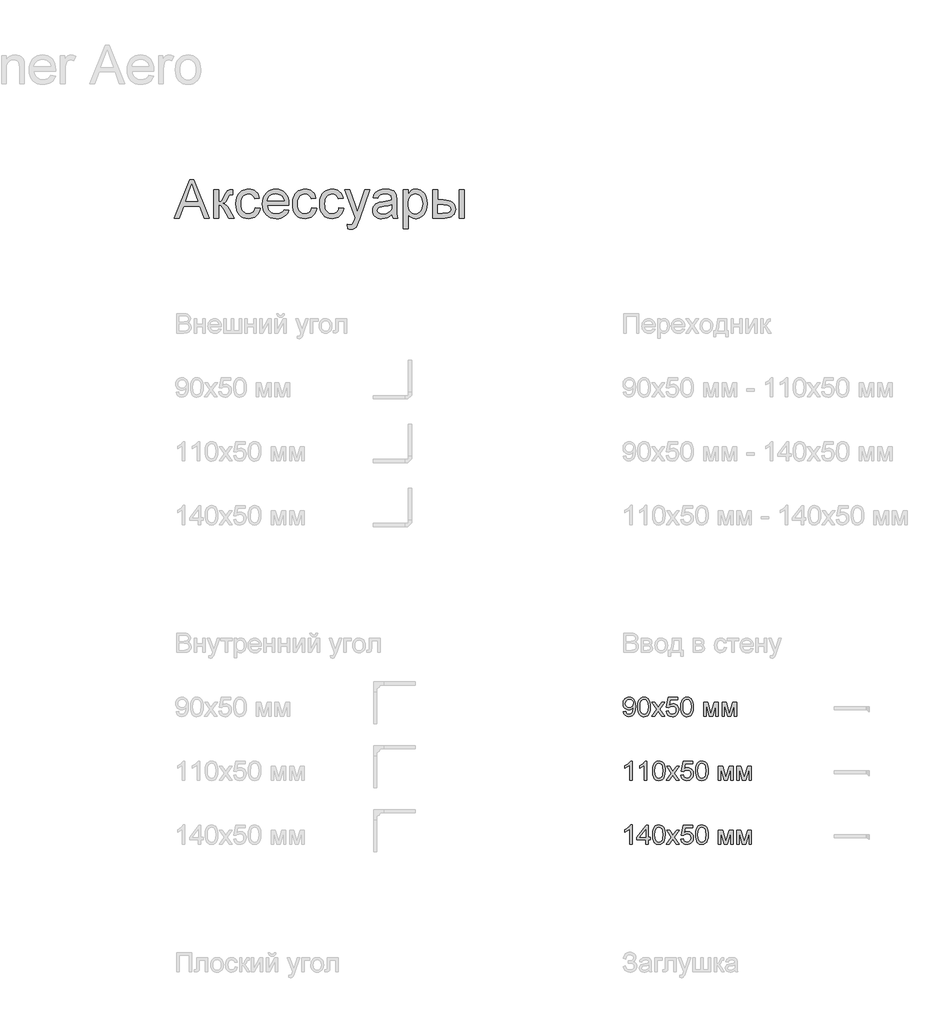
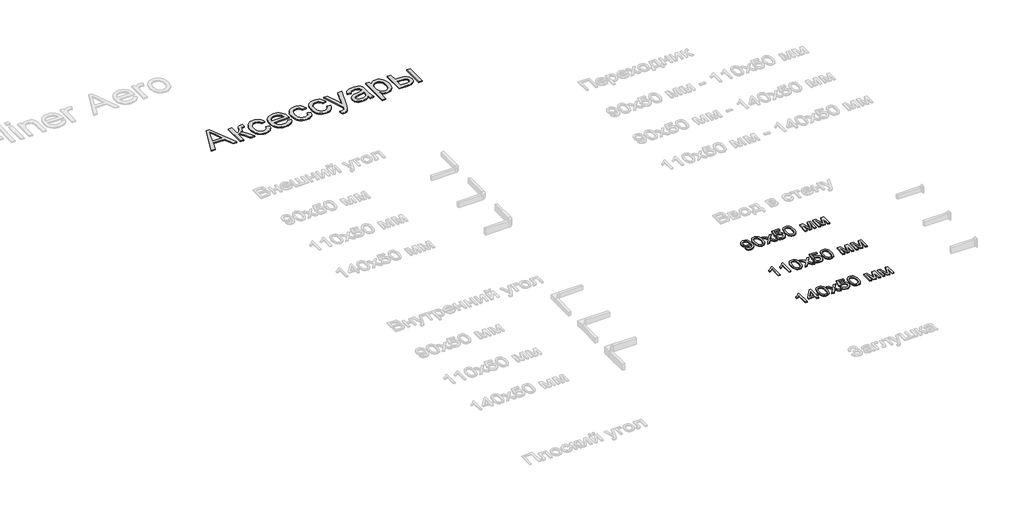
# One storey, part 92 of 168: 4 proxies.
"""IFC4 building model written with IfcOpenShell, lengths in millimetres."""

from ifc_helpers import new_model, si_unit, origin, origin_with_axes, place, context, project, spatial, polyline, outline, extrude, element, save

model = new_model("IFC4")

# Units and contexts
model_context = context("Model", 3, world=origin())
ifc_project = project(units=[si_unit("LENGTHUNIT", "METRE", prefix="MILLI")], contexts=[model_context])

# Site, building, storey
site = spatial("IfcSite", under=ifc_project)
building = spatial("IfcBuilding", under=site)
storey = spatial("IfcBuildingStorey", under=building, Name="Этаж 01", Elevation=0.0)

# Proxies
placement = place(None, origin())
element("IfcBuildingElementProxy", 1, Name="300 мм Arial 2", ObjectType="300 мм Arial 2", at=placement, inside=storey, context=model_context, shape_type="SweptSolid", body=[
    extrude(outline(polyline([(18069.3999525, -13073.063449), (18107.0710688, -13068.3545594), (18113.5090037, -13089.7377004), (18123.9936406, -13104.2966303), (18138.267462, -13112.6567487), (18156.0729505, -13115.4434548), (18172.0482262, -13113.6500301), (18186.5703679, -13108.2697559), (18198.6368974, -13099.8912435), (18207.2453361, -13089.1031039), (18219.5693829, -13056.3616064), (18225.0140364, -13012.6572253), (18224.7933072, -13005.2995854), (18211.7426935, -13021.2288758), (18194.6637718, -13033.8472283), (18174.7889471, -13042.0693909), (18153.3506238, -13044.8101117), (18135.455464, -13043.1362486), (18118.9996425, -13038.1146594), (18103.9831593, -13029.745344), (18090.4060144, -13018.0283025), (18079.1557231, -13003.5751386), (18071.1198008, -12986.9974562), (18066.2982474, -12968.2952553), (18064.6910629, -12947.4685358), (18066.3764223, -12925.9474391), (18071.4325005, -12906.6336343), (18079.8592975, -12889.5271216), (18091.6568132, -12874.6279008), (18105.9927147, -12862.5567728), (18122.0346689, -12853.9345385), (18139.782676, -12848.761198), (18159.2367357, -12847.0367511), (18187.3337231, -12850.9730885), (18212.9107188, -12862.7821005), (18234.3030568, -12881.8751761), (18249.8460711, -12907.6637039), (18259.3098354, -12943.3114693), (18262.4644236, -12991.9822572), (18259.3190325, -13043.5869041), (18249.8828593, -13083.4745094), (18234.2386775, -13113.447695), (18212.4692604, -13135.3090825), (18185.5127072, -13148.663199), (18154.307117, -13153.1145711), (18122.0990483, -13147.8630556), (18096.4024909, -13132.1085092), (18078.4314555, -13106.8442132), (18069.3999525, -13073.063449)]), holes=[polyline([(18224.7933072, -12946.585619), (18220.7282112, -12921.0546085), (18208.5329231, -12901.40971), (18189.6053944, -12888.8833281), (18165.3435768, -12884.7078674), (18140.1804484, -12889.2052248), (18120.020515, -12902.697297), (18106.7767632, -12923.344674), (18102.3621793, -12949.3079458), (18106.5376399, -12972.585679), (18119.0640218, -12991.0625522), (18138.7273145, -13003.1198846), (18164.3135072, -13007.1389954), (18188.3821868, -13003.1198846), (18207.7603709, -12991.0625522), (18220.5350732, -12971.9050973), (18224.7933072, -12946.585619)])]), origin_with_axes(), (0.0, 0.0, 1.0), 20.0),
    extrude(outline(polyline([(18295.4266503, -13000.1492375), (18298.1949623, -12951.9107109), (18306.4998984, -12913.4394512), (18320.258685, -12884.1468474), (18339.3885487, -12863.4442881), (18364.0274454, -12851.1386354), (18394.3133306, -12847.0367511), (18417.5266845, -12849.4647723), (18438.3120172, -12856.7488358), (18455.6944415, -12868.6038331), (18468.6990701, -12884.7446556), (18478.5215193, -12905.0333477), (18486.3574058, -12929.3319534), (18491.4893597, -12960.1880558), (18493.2000109, -13000.1492375), (18490.4592901, -13048.1118526), (18482.2371275, -13086.4911418), (18468.5611143, -13115.8113368), (18449.4588417, -13136.5966695), (18424.7647628, -13148.9850957), (18394.3133306, -13153.1145711), (18373.5647861, -13151.3211464), (18355.1706863, -13145.9408722), (18339.1310313, -13136.9737486), (18325.4458211, -13124.4197755), (18312.3124339, -13101.7260549), (18302.931443, -13073.4497251), (18297.3028485, -13039.5907859), (18295.4266503, -13000.1492375)]), holes=[polyline([(18333.0977666, -13000.0756611), (18337.5123506, -13059.3322535), (18343.0305805, -13079.6002522), (18350.7561024, -13093.6280525), (18370.4745773, -13109.9896042), (18394.3133306, -13115.4434548), (18418.1520839, -13109.9712101), (18437.8705589, -13093.5544761), (18445.5960808, -13079.5036831), (18451.1143107, -13059.240283), (18455.5288946, -13000.0756611), (18451.2614635, -12942.152641), (18445.9271745, -12921.9513209), (18438.45917, -12907.5901275), (18418.7774833, -12890.4284325), (18393.8718722, -12884.7078674), (18370.2906363, -12889.7478508), (18351.3447136, -12904.8678008), (18343.3616743, -12920.5027856), (18337.6595034, -12941.5824239), (18333.0977666, -13000.0756611)])]), origin_with_axes(), (0.0, 0.0, 1.0), 20.0),
    extrude(outline(polyline([(18512.0355691, -13148.4056816), (18592.5281496, -13037.1581662), (18516.7444586, -12927.0878733), (18562.0675204, -12927.0878733), (18598.6349907, -12980.0628806), (18615.7047153, -13005.0788562), (18630.4935715, -12984.6246173), (18672.1378134, -12927.0878733), (18717.4608752, -12927.0878733), (18637.8512114, -13037.1581662), (18714.5178192, -13148.4056816), (18669.1947574, -13148.4056816), (18623.0623552, -13081.5247348), (18614.6010693, -13069.3110526), (18557.3586309, -13148.4056816), (18512.0355691, -13148.4056816)])), origin_with_axes(), (0.0, 0.0, 1.0), 20.0),
    extrude(outline(polyline([(18738.0622669, -13068.3545594), (18775.7333832, -13063.6456699), (18782.6495647, -13086.2612155), (18794.7160942, -13102.4572204), (18811.8777893, -13112.1968962), (18834.0794677, -13115.4434548), (18861.0820061, -13110.9277033), (18881.3155158, -13097.3804488), (18893.9522624, -13076.3651899), (18898.1645112, -13049.4454249), (18894.2189768, -13024.0983554), (18882.3823736, -13004.7109743), (18862.5627311, -12992.4053215), (18834.6680789, -12988.3034373), (18816.3935407, -12989.9405121), (18801.5954875, -12994.8517368), (18780.4422728, -13011.847885), (18742.7711565, -13007.1389954), (18775.7333832, -12851.7456407), (18921.7089589, -12851.7456407), (18921.7089589, -12889.416757), (18806.1940124, -12889.416757), (18790.080781, -12972.4109351), (18816.991349, -12956.0769745), (18845.1895039, -12950.632321), (18863.5353192, -12952.3199796), (18880.3866138, -12957.3829556), (18895.7433878, -12965.8212488), (18909.6056413, -12977.6348594), (18921.0812603, -12992.1018189), (18929.278131, -13008.5001588), (18934.1962534, -13026.8298792), (18935.8356275, -13047.0909801), (18929.9311215, -13084.7620964), (18922.550489, -13101.5559095), (18912.2176034, -13116.9885592), (18896.5642245, -13132.7936894), (18878.2988835, -13144.0830681), (18857.4215803, -13150.8566954), (18833.9323149, -13153.1145711), (18796.9325832, -13147.3112326), (18781.2539124, -13140.0570595), (18767.4560383, -13129.9012172), (18755.9758208, -13117.3495434), (18747.2501197, -13102.9078758), (18738.0622669, -13068.3545594)])), origin_with_axes(), (0.0, 0.0, 1.0), 20.0),
    extrude(outline(polyline([(18968.7978543, -13000.1492375), (18971.5661663, -12951.9107109), (18979.8711023, -12913.4394512), (18993.629889, -12884.1468474), (19012.7597527, -12863.4442881), (19037.3986493, -12851.1386354), (19067.6845346, -12847.0367511), (19090.8978885, -12849.4647723), (19111.6832212, -12856.7488358), (19129.0656455, -12868.6038331), (19142.070274, -12884.7446556), (19151.8927233, -12905.0333477), (19159.7286098, -12929.3319534), (19164.8605636, -12960.1880558), (19166.5712149, -13000.1492375), (19163.830494, -13048.1118526), (19155.6083314, -13086.4911418), (19141.9323183, -13115.8113368), (19122.8300457, -13136.5966695), (19098.1359667, -13148.9850957), (19067.6845346, -13153.1145711), (19046.9359901, -13151.3211464), (19028.5418903, -13145.9408722), (19012.5022353, -13136.9737486), (18998.8170251, -13124.4197755), (18985.6836379, -13101.7260549), (18976.302647, -13073.4497251), (18970.6740525, -13039.5907859), (18968.7978543, -13000.1492375)]), holes=[polyline([(19006.4689706, -13000.0756611), (19010.8835545, -13059.3322535), (19016.4017845, -13079.6002522), (19024.1273064, -13093.6280525), (19043.8457813, -13109.9896042), (19067.6845346, -13115.4434548), (19091.5232879, -13109.9712101), (19111.2417628, -13093.5544761), (19118.9672847, -13079.5036831), (19124.4855147, -13059.240283), (19128.9000986, -13000.0756611), (19124.6326675, -12942.152641), (19119.2983785, -12921.9513209), (19111.830374, -12907.5901275), (19092.1486873, -12890.4284325), (19067.2430762, -12884.7078674), (19043.6618403, -12889.7478508), (19024.7159176, -12904.8678008), (19016.7328783, -12920.5027856), (19011.0307073, -12941.5824239), (19006.4689706, -13000.0756611)])]), origin_with_axes(), (0.0, 0.0, 1.0), 20.0),
    extrude(outline(polyline([(19326.6734592, -12927.0878733), (19391.4942668, -12927.0878733), (19441.4526417, -13104.2598421), (19495.3105658, -12927.0878733), (19557.4090466, -12927.0878733), (19557.4090466, -13148.4056816), (19519.7379303, -13148.4056816), (19519.7379303, -12970.2036431), (19465.5857006, -13148.4056816), (19416.1423604, -13148.4056816), (19364.3445755, -12961.6687808), (19364.3445755, -13148.4056816), (19326.6734592, -13148.4056816), (19326.6734592, -12927.0878733)])), origin_with_axes(), (0.0, 0.0, 1.0), 20.0),
    extrude(outline(polyline([(19613.915721, -12927.0878733), (19678.7365286, -12927.0878733), (19728.6949035, -13104.2598421), (19782.5528276, -12927.0878733), (19844.6513084, -12927.0878733), (19844.6513084, -13148.4056816), (19806.9801921, -13148.4056816), (19806.9801921, -12970.2036431), (19752.8279624, -13148.4056816), (19703.3846223, -13148.4056816), (19651.5868373, -12961.6687808), (19651.5868373, -13148.4056816), (19613.915721, -13148.4056816), (19613.915721, -12927.0878733)])), origin_with_axes(), (0.0, 0.0, 1.0), 20.0),
])
element("IfcBuildingElementProxy", 2, Name="300 мм Arial 2", ObjectType="300 мм Arial 2", at=placement, inside=storey, context=model_context, shape_type="SweptSolid", body=[
    extrude(outline(polyline([(18205.9577491, -14148.4056816), (18168.2866328, -14148.4056816), (18168.2866328, -13913.5498158), (18132.6020793, -13938.9704617), (18092.9444002, -13957.9899609), (18092.9444002, -13922.3789837), (18122.5313096, -13906.2841464), (18148.1634877, -13887.1358886), (18168.3694062, -13866.7736202), (18181.6775374, -13847.0367511), (18205.9577491, -13847.0367511), (18205.9577491, -14148.4056816)])), origin_with_axes(), (0.0, 0.0, 1.0), 20.0),
    extrude(outline(polyline([(18436.6933365, -14148.4056816), (18399.0222202, -14148.4056816), (18399.0222202, -13913.5498158), (18363.3376666, -13938.9704617), (18323.6799876, -13957.9899609), (18323.6799876, -13922.3789837), (18353.266897, -13906.2841464), (18378.899075, -13887.1358886), (18399.1049936, -13866.7736202), (18412.4131248, -13847.0367511), (18436.6933365, -13847.0367511), (18436.6933365, -14148.4056816)])), origin_with_axes(), (0.0, 0.0, 1.0), 20.0),
    extrude(outline(polyline([(18526.1622377, -14000.1492375), (18528.9305497, -13951.9107109), (18537.2354858, -13913.4394512), (18550.9942724, -13884.1468474), (18570.1241361, -13863.4442881), (18594.7630327, -13851.1386354), (18625.048918, -13847.0367511), (18648.2622719, -13849.4647723), (18669.0476046, -13856.7488358), (18686.4300289, -13868.6038331), (18699.4346574, -13884.7446556), (18709.2571067, -13905.0333477), (18717.0929932, -13929.3319534), (18722.224947, -13960.1880558), (18723.9355983, -14000.1492375), (18721.1948774, -14048.1118526), (18712.9727148, -14086.4911418), (18699.2967017, -14115.8113368), (18680.1944291, -14136.5966695), (18655.5003502, -14148.9850957), (18625.048918, -14153.1145711), (18604.3003735, -14151.3211464), (18585.9062737, -14145.9408722), (18569.8666187, -14136.9737486), (18556.1814085, -14124.4197755), (18543.0480213, -14101.7260549), (18533.6670304, -14073.4497251), (18528.0384359, -14039.5907859), (18526.1622377, -14000.1492375)]), holes=[polyline([(18563.833354, -14000.0756611), (18568.2479379, -14059.3322535), (18573.7661679, -14079.6002522), (18581.4916898, -14093.6280525), (18601.2101647, -14109.9896042), (18625.048918, -14115.4434548), (18648.8876713, -14109.9712101), (18668.6061462, -14093.5544761), (18676.3316681, -14079.5036831), (18681.8498981, -14059.240283), (18686.264482, -14000.0756611), (18681.9970509, -13942.152641), (18676.6627619, -13921.9513209), (18669.1947574, -13907.5901275), (18649.5130707, -13890.4284325), (18624.6074596, -13884.7078674), (18601.0262237, -13889.7478508), (18582.080301, -13904.8678008), (18574.0972617, -13920.5027856), (18568.3950907, -13941.5824239), (18563.833354, -14000.0756611)])]), origin_with_axes(), (0.0, 0.0, 1.0), 20.0),
    extrude(outline(polyline([(18742.7711565, -14148.4056816), (18823.263737, -14037.1581662), (18747.480046, -13927.0878733), (18792.8031078, -13927.0878733), (18829.3705781, -13980.0628806), (18846.4403027, -14005.0788562), (18861.2291589, -13984.6246173), (18902.8734008, -13927.0878733), (18948.1964626, -13927.0878733), (18868.5867988, -14037.1581662), (18945.2534066, -14148.4056816), (18899.9303448, -14148.4056816), (18853.7979426, -14081.5247348), (18845.3366567, -14069.3110526), (18788.0942183, -14148.4056816), (18742.7711565, -14148.4056816)])), origin_with_axes(), (0.0, 0.0, 1.0), 20.0),
    extrude(outline(polyline([(18968.7978543, -14068.3545594), (19006.4689706, -14063.6456699), (19013.3851521, -14086.2612155), (19025.4516816, -14102.4572204), (19042.6133766, -14112.1968962), (19064.815055, -14115.4434548), (19091.8175935, -14110.9277033), (19112.0511032, -14097.3804488), (19124.6878498, -14076.3651899), (19128.9000986, -14049.4454249), (19124.9545642, -14024.0983554), (19113.117961, -14004.7109743), (19093.2983185, -13992.4053215), (19065.4036662, -13988.3034373), (19047.1291281, -13989.9405121), (19032.3310749, -13994.8517368), (19011.1778601, -14011.847885), (18973.5067438, -14007.1389954), (19006.4689706, -13851.7456407), (19152.4445463, -13851.7456407), (19152.4445463, -13889.416757), (19036.9295998, -13889.416757), (19020.8163684, -13972.4109351), (19047.7269364, -13956.0769745), (19075.9250913, -13950.632321), (19094.2709065, -13952.3199796), (19111.1222012, -13957.3829556), (19126.4789752, -13965.8212488), (19140.3412286, -13977.6348594), (19151.8168476, -13992.1018189), (19160.0137183, -14008.5001588), (19164.9318408, -14026.8298792), (19166.5712149, -14047.0909801), (19160.6667089, -14084.7620964), (19153.2860764, -14101.5559095), (19142.9531908, -14116.9885592), (19127.2998119, -14132.7936894), (19109.0344709, -14144.0830681), (19088.1571676, -14150.8566954), (19064.6679022, -14153.1145711), (19027.6681706, -14147.3112326), (19011.9894998, -14140.0570595), (18998.1916257, -14129.9012172), (18986.7114082, -14117.3495434), (18977.9857071, -14102.9078758), (18968.7978543, -14068.3545594)])), origin_with_axes(), (0.0, 0.0, 1.0), 20.0),
    extrude(outline(polyline([(19199.5334417, -14000.1492375), (19202.3017537, -13951.9107109), (19210.6066897, -13913.4394512), (19224.3654763, -13884.1468474), (19243.4953401, -13863.4442881), (19268.1342367, -13851.1386354), (19298.420122, -13847.0367511), (19321.6334759, -13849.4647723), (19342.4188086, -13856.7488358), (19359.8012329, -13868.6038331), (19372.8058614, -13884.7446556), (19382.6283107, -13905.0333477), (19390.4641972, -13929.3319534), (19395.596151, -13960.1880558), (19397.3068023, -14000.1492375), (19394.5660814, -14048.1118526), (19386.3439188, -14086.4911418), (19372.6679056, -14115.8113368), (19353.565633, -14136.5966695), (19328.8715541, -14148.9850957), (19298.420122, -14153.1145711), (19277.6715774, -14151.3211464), (19259.2774777, -14145.9408722), (19243.2378227, -14136.9737486), (19229.5526125, -14124.4197755), (19216.4192252, -14101.7260549), (19207.0382344, -14073.4497251), (19201.4096398, -14039.5907859), (19199.5334417, -14000.1492375)]), holes=[polyline([(19237.204558, -14000.0756611), (19241.6191419, -14059.3322535), (19247.1373718, -14079.6002522), (19254.8628937, -14093.6280525), (19274.5813687, -14109.9896042), (19298.420122, -14115.4434548), (19322.2588753, -14109.9712101), (19341.9773502, -14093.5544761), (19349.7028721, -14079.5036831), (19355.221102, -14059.240283), (19359.635686, -14000.0756611), (19355.3682548, -13942.152641), (19350.0339659, -13921.9513209), (19342.5659614, -13907.5901275), (19322.8842747, -13890.4284325), (19297.9786636, -13884.7078674), (19274.3974277, -13889.7478508), (19255.4515049, -13904.8678008), (19247.4684656, -13920.5027856), (19241.7662947, -13941.5824239), (19237.204558, -14000.0756611)])]), origin_with_axes(), (0.0, 0.0, 1.0), 20.0),
    extrude(outline(polyline([(19557.4090466, -13927.0878733), (19622.2298541, -13927.0878733), (19672.1882291, -14104.2598421), (19726.0461532, -13927.0878733), (19788.144634, -13927.0878733), (19788.144634, -14148.4056816), (19750.4735176, -14148.4056816), (19750.4735176, -13970.2036431), (19696.321288, -14148.4056816), (19646.8779478, -14148.4056816), (19595.0801629, -13961.6687808), (19595.0801629, -14148.4056816), (19557.4090466, -14148.4056816), (19557.4090466, -13927.0878733)])), origin_with_axes(), (0.0, 0.0, 1.0), 20.0),
    extrude(outline(polyline([(19844.6513084, -13927.0878733), (19909.472116, -13927.0878733), (19959.4304909, -14104.2598421), (20013.288415, -13927.0878733), (20075.3868958, -13927.0878733), (20075.3868958, -14148.4056816), (20037.7157795, -14148.4056816), (20037.7157795, -13970.2036431), (19983.5635498, -14148.4056816), (19934.1202096, -14148.4056816), (19882.3224247, -13961.6687808), (19882.3224247, -14148.4056816), (19844.6513084, -14148.4056816), (19844.6513084, -13927.0878733)])), origin_with_axes(), (0.0, 0.0, 1.0), 20.0),
])
element("IfcBuildingElementProxy", 3, Name="300 мм Arial 2", ObjectType="300 мм Arial 2", at=placement, inside=storey, context=model_context, shape_type="SweptSolid", body=[
    extrude(outline(polyline([(18205.9577491, -15148.4056816), (18168.2866328, -15148.4056816), (18168.2866328, -14913.5498158), (18132.6020793, -14938.9704617), (18092.9444002, -14957.9899609), (18092.9444002, -14922.3789837), (18122.5313096, -14906.2841464), (18148.1634877, -14887.1358886), (18168.3694062, -14866.7736202), (18181.6775374, -14847.0367511), (18205.9577491, -14847.0367511), (18205.9577491, -15148.4056816)])), origin_with_axes(), (0.0, 0.0, 1.0), 20.0),
    extrude(outline(polyline([(18417.8577783, -15148.4056816), (18417.8577783, -15077.7723385), (18281.2999817, -15077.7723385), (18281.2999817, -15040.1012222), (18427.2755574, -14851.7456407), (18455.5288946, -14851.7456407), (18455.5288946, -15040.1012222), (18493.2000109, -15040.1012222), (18493.2000109, -15077.7723385), (18455.5288946, -15077.7723385), (18455.5288946, -15148.4056816), (18417.8577783, -15148.4056816)]), holes=[polyline([(18417.8577783, -15040.1012222), (18417.8577783, -14923.7033589), (18327.6531131, -15040.1012222), (18417.8577783, -15040.1012222)])]), origin_with_axes(), (0.0, 0.0, 1.0), 20.0),
    extrude(outline(polyline([(18526.1622377, -15000.1492375), (18528.9305497, -14951.9107109), (18537.2354858, -14913.4394512), (18550.9942724, -14884.1468474), (18570.1241361, -14863.4442881), (18594.7630327, -14851.1386354), (18625.048918, -14847.0367511), (18648.2622719, -14849.4647723), (18669.0476046, -14856.7488358), (18686.4300289, -14868.6038331), (18699.4346574, -14884.7446556), (18709.2571067, -14905.0333477), (18717.0929932, -14929.3319534), (18722.224947, -14960.1880558), (18723.9355983, -15000.1492375), (18721.1948774, -15048.1118526), (18712.9727148, -15086.4911418), (18699.2967017, -15115.8113368), (18680.1944291, -15136.5966695), (18655.5003502, -15148.9850957), (18625.048918, -15153.1145711), (18604.3003735, -15151.3211464), (18585.9062737, -15145.9408722), (18569.8666187, -15136.9737486), (18556.1814085, -15124.4197755), (18543.0480213, -15101.7260549), (18533.6670304, -15073.4497251), (18528.0384359, -15039.5907859), (18526.1622377, -15000.1492375)]), holes=[polyline([(18563.833354, -15000.0756611), (18568.2479379, -15059.3322535), (18573.7661679, -15079.6002522), (18581.4916898, -15093.6280525), (18601.2101647, -15109.9896042), (18625.048918, -15115.4434548), (18648.8876713, -15109.9712101), (18668.6061462, -15093.5544761), (18676.3316681, -15079.5036831), (18681.8498981, -15059.240283), (18686.264482, -15000.0756611), (18681.9970509, -14942.152641), (18676.6627619, -14921.9513209), (18669.1947574, -14907.5901275), (18649.5130707, -14890.4284325), (18624.6074596, -14884.7078674), (18601.0262237, -14889.7478508), (18582.080301, -14904.8678008), (18574.0972617, -14920.5027856), (18568.3950907, -14941.5824239), (18563.833354, -15000.0756611)])]), origin_with_axes(), (0.0, 0.0, 1.0), 20.0),
    extrude(outline(polyline([(18742.7711565, -15148.4056816), (18823.263737, -15037.1581662), (18747.480046, -14927.0878733), (18792.8031078, -14927.0878733), (18829.3705781, -14980.0628806), (18846.4403027, -15005.0788562), (18861.2291589, -14984.6246173), (18902.8734008, -14927.0878733), (18948.1964626, -14927.0878733), (18868.5867988, -15037.1581662), (18945.2534066, -15148.4056816), (18899.9303448, -15148.4056816), (18853.7979426, -15081.5247348), (18845.3366567, -15069.3110526), (18788.0942183, -15148.4056816), (18742.7711565, -15148.4056816)])), origin_with_axes(), (0.0, 0.0, 1.0), 20.0),
    extrude(outline(polyline([(18968.7978543, -15068.3545594), (19006.4689706, -15063.6456699), (19013.3851521, -15086.2612155), (19025.4516816, -15102.4572204), (19042.6133766, -15112.1968962), (19064.815055, -15115.4434548), (19091.8175935, -15110.9277033), (19112.0511032, -15097.3804488), (19124.6878498, -15076.3651899), (19128.9000986, -15049.4454249), (19124.9545642, -15024.0983554), (19113.117961, -15004.7109743), (19093.2983185, -14992.4053215), (19065.4036662, -14988.3034373), (19047.1291281, -14989.9405121), (19032.3310749, -14994.8517368), (19011.1778601, -15011.847885), (18973.5067438, -15007.1389954), (19006.4689706, -14851.7456407), (19152.4445463, -14851.7456407), (19152.4445463, -14889.416757), (19036.9295998, -14889.416757), (19020.8163684, -14972.4109351), (19047.7269364, -14956.0769745), (19075.9250913, -14950.632321), (19094.2709065, -14952.3199796), (19111.1222012, -14957.3829556), (19126.4789752, -14965.8212488), (19140.3412286, -14977.6348594), (19151.8168476, -14992.1018189), (19160.0137183, -15008.5001588), (19164.9318408, -15026.8298792), (19166.5712149, -15047.0909801), (19160.6667089, -15084.7620964), (19153.2860764, -15101.5559095), (19142.9531908, -15116.9885592), (19127.2998119, -15132.7936894), (19109.0344709, -15144.0830681), (19088.1571676, -15150.8566954), (19064.6679022, -15153.1145711), (19027.6681706, -15147.3112326), (19011.9894998, -15140.0570595), (18998.1916257, -15129.9012172), (18986.7114082, -15117.3495434), (18977.9857071, -15102.9078758), (18968.7978543, -15068.3545594)])), origin_with_axes(), (0.0, 0.0, 1.0), 20.0),
    extrude(outline(polyline([(19199.5334417, -15000.1492375), (19202.3017537, -14951.9107109), (19210.6066897, -14913.4394512), (19224.3654763, -14884.1468474), (19243.4953401, -14863.4442881), (19268.1342367, -14851.1386354), (19298.420122, -14847.0367511), (19321.6334759, -14849.4647723), (19342.4188086, -14856.7488358), (19359.8012329, -14868.6038331), (19372.8058614, -14884.7446556), (19382.6283107, -14905.0333477), (19390.4641972, -14929.3319534), (19395.596151, -14960.1880558), (19397.3068023, -15000.1492375), (19394.5660814, -15048.1118526), (19386.3439188, -15086.4911418), (19372.6679056, -15115.8113368), (19353.565633, -15136.5966695), (19328.8715541, -15148.9850957), (19298.420122, -15153.1145711), (19277.6715774, -15151.3211464), (19259.2774777, -15145.9408722), (19243.2378227, -15136.9737486), (19229.5526125, -15124.4197755), (19216.4192252, -15101.7260549), (19207.0382344, -15073.4497251), (19201.4096398, -15039.5907859), (19199.5334417, -15000.1492375)]), holes=[polyline([(19237.204558, -15000.0756611), (19241.6191419, -15059.3322535), (19247.1373718, -15079.6002522), (19254.8628937, -15093.6280525), (19274.5813687, -15109.9896042), (19298.420122, -15115.4434548), (19322.2588753, -15109.9712101), (19341.9773502, -15093.5544761), (19349.7028721, -15079.5036831), (19355.221102, -15059.240283), (19359.635686, -15000.0756611), (19355.3682548, -14942.152641), (19350.0339659, -14921.9513209), (19342.5659614, -14907.5901275), (19322.8842747, -14890.4284325), (19297.9786636, -14884.7078674), (19274.3974277, -14889.7478508), (19255.4515049, -14904.8678008), (19247.4684656, -14920.5027856), (19241.7662947, -14941.5824239), (19237.204558, -15000.0756611)])]), origin_with_axes(), (0.0, 0.0, 1.0), 20.0),
    extrude(outline(polyline([(19557.4090466, -14927.0878733), (19622.2298541, -14927.0878733), (19672.1882291, -15104.2598421), (19726.0461532, -14927.0878733), (19788.144634, -14927.0878733), (19788.144634, -15148.4056816), (19750.4735176, -15148.4056816), (19750.4735176, -14970.2036431), (19696.321288, -15148.4056816), (19646.8779478, -15148.4056816), (19595.0801629, -14961.6687808), (19595.0801629, -15148.4056816), (19557.4090466, -15148.4056816), (19557.4090466, -14927.0878733)])), origin_with_axes(), (0.0, 0.0, 1.0), 20.0),
    extrude(outline(polyline([(19844.6513084, -14927.0878733), (19909.472116, -14927.0878733), (19959.4304909, -15104.2598421), (20013.288415, -14927.0878733), (20075.3868958, -14927.0878733), (20075.3868958, -15148.4056816), (20037.7157795, -15148.4056816), (20037.7157795, -14970.2036431), (19983.5635498, -15148.4056816), (19934.1202096, -15148.4056816), (19882.3224247, -14961.6687808), (19882.3224247, -15148.4056816), (19844.6513084, -15148.4056816), (19844.6513084, -14927.0878733)])), origin_with_axes(), (0.0, 0.0, 1.0), 20.0),
])
element("IfcBuildingElementProxy", 4, Name="600 мм Arial", ObjectType="600 мм Arial", at=placement, inside=storey, context=model_context, shape_type="SweptSolid", body=[
    extrude(outline(polyline([(11041.5880737, -5348.4056816), (11282.1828985, -4745.6678207), (11346.3415185, -4745.6678207), (11586.9363433, -5348.4056816), (11507.3266795, -5348.4056816), (11438.3120172, -5160.0501), (11190.0652469, -5160.0501), (11121.1977374, -5348.4056816), (11041.5880737, -5348.4056816)]), holes=[polyline([(11217.7299729, -5084.7078674), (11410.794444, -5084.7078674), (11356.4950615, -4936.5249998), (11314.2622085, -4821.0100533), (11276.738245, -4923.5755535), (11217.7299729, -5084.7078674)])]), origin_with_axes(), (0.0, 0.0, 1.0), 20.0),
    extrude(outline(polyline([(11658.0111448, -4905.770065), (11733.3533774, -4905.770065), (11733.3533774, -5094.1256465), (11763.9979476, -5090.7411321), (11783.8267871, -5080.5875891), (11801.3747583, -5054.1000854), (11825.1767234, -5001.7136893), (11844.3617694, -4958.873831), (11859.5369017, -4933.6555202), (11873.7003585, -4919.9151277), (11889.8503781, -4911.5090241), (11912.1992093, -4907.2048048), (11944.959101, -4905.770065), (11959.3800752, -4905.770065), (11959.3800752, -4981.553756), (11939.0729891, -4981.1122976), (11915.5285414, -4983.0988604), (11902.2847896, -4989.0585487), (11891.5426353, -5005.6500267), (11876.3858971, -5038.6490416), (11860.4750008, -5071.7032389), (11845.9988443, -5092.2862365), (11828.4692672, -5106.026629), (11803.3981093, -5118.553011), (11827.2736507, -5129.1572095), (11850.928463, -5147.873206), (11874.3625461, -5174.7010005), (11897.5759, -5209.640593), (11978.2156334, -5348.4056816), (11892.5727049, -5348.4056816), (11813.5516523, -5212.5836489), (11792.2144966, -5176.4392429), (11773.8203969, -5155.1204813), (11755.2423561, -5144.6910267), (11733.3533774, -5141.2145419), (11733.3533774, -5348.4056816), (11658.0111448, -5348.4056816), (11658.0111448, -4905.770065)])), origin_with_axes(), (0.0, 0.0, 1.0), 20.0),
    extrude(outline(polyline([(12307.837901, -5188.3034373), (12383.1801337, -5197.7212163), (12374.9855622, -5233.2724127), (12362.1740717, -5264.7309218), (12344.7456622, -5292.0967437), (12322.7003337, -5315.3698784), (12296.9669881, -5333.9433206), (12268.4745276, -5347.2100651), (12237.2229521, -5355.1701118), (12203.2122616, -5357.8234606), (12160.9564159, -5354.1216481), (12123.069169, -5343.0162103), (12089.5505207, -5324.5071475), (12060.4004711, -5298.5944594), (12036.8054396, -5265.7655899), (12019.9518457, -5226.5079825), (12009.8396894, -5180.8216372), (12006.4689706, -5128.706554), (12012.2263238, -5061.6600604), (12019.4230154, -5031.4891383), (12029.4983835, -5003.5530993), (12042.5214061, -4978.4129634), (12058.5610611, -4956.6297508), (12077.6173485, -4938.2034614), (12099.6902682, -4923.1340951), (12123.7819403, -4911.4170536), (12148.894485, -4903.0477382), (12175.0279023, -4898.026149), (12202.182192, -4896.3522859), (12235.6088698, -4898.6515484), (12265.8441713, -4905.5493358), (12292.8880965, -4917.0456481), (12316.7406453, -4933.1404854), (12336.9971477, -4953.4659656), (12353.2529334, -4977.6542068), (12365.5080023, -5005.705209), (12373.7623546, -5037.618972), (12298.420122, -5047.0367511), (12284.7533059, -5014.1664949), (12263.4713324, -4990.6036531), (12235.7514241, -4976.4218021), (12202.7708032, -4971.6945185), (12177.1708149, -4974.0213721), (12154.0816212, -4981.001933), (12133.5032221, -4992.6362011), (12115.4356176, -5008.9241764), (12100.7249363, -5030.242938), (12090.2173068, -5056.969565), (12083.9127291, -5089.1040573), (12081.8112032, -5126.6464149), (12083.8667439, -5164.7543911), (12090.0333658, -5197.2613639), (12100.311069, -5224.1673333), (12114.6998536, -5245.4722993), (12132.4087731, -5261.6637056), (12152.6468814, -5273.2289959), (12175.4141784, -5280.16817), (12200.7106641, -5282.481228), (12239.7245496, -5276.7054807), (12256.5965376, -5269.4857966), (12271.7118891, -5259.3782387), (12284.6475398, -5246.2724427), (12294.9804253, -5230.0580437), (12302.7105457, -5210.7350419), (12307.837901, -5188.3034373)])), origin_with_axes(), (0.0, 0.0, 1.0), 20.0),
    extrude(outline(polyline([(12759.0083799, -5216.5567745), (12832.8790846, -5225.9745536), (12821.5529176, -5255.561463), (12806.2628222, -5281.6350994), (12787.0087983, -5304.1954628), (12763.7908459, -5323.2425531), (12736.8480882, -5338.3717002), (12706.4196487, -5349.1782338), (12672.5055273, -5355.6621539), (12635.105724, -5357.8234606), (12588.3571194, -5354.0940569), (12546.7036805, -5342.9058457), (12510.1454072, -5324.2588271), (12478.6822996, -5298.153001), (12453.3812154, -5265.3149344), (12435.3090124, -5226.4711943), (12424.4656906, -5181.6217805), (12420.85125, -5130.7666932), (12424.5024788, -5078.1871591), (12435.4561652, -5031.8432247), (12453.7123092, -4991.7348902), (12479.2709108, -4957.8621555), (12510.651245, -4930.9515875), (12546.3725867, -4911.7297533), (12586.434936, -4900.1966527), (12630.8382928, -4896.3522859), (12673.8115084, -4900.1874557), (12712.6736426, -4911.6929651), (12747.4246956, -4930.8688141), (12778.0646673, -4957.7150027), (12803.0760444, -4991.514161), (12820.9413138, -5031.5489191), (12831.6604755, -5077.8192771), (12835.2335293, -5130.3252348), (12834.7920709, -5150.632321), (12496.1934826, -5150.632321), (12500.5574827, -5180.697477), (12509.2348993, -5207.0286308), (12522.2257323, -5229.6257824), (12539.5299816, -5248.4889317), (12560.1911542, -5263.3605613), (12583.2527567, -5273.9831539), (12608.7147893, -5280.3567095), (12636.5772519, -5282.481228), (12676.6763894, -5278.5448907), (12710.4479566, -5266.7358786), (12737.8919534, -5246.3184279), (12759.0083799, -5216.5567745)]), holes=[polyline([(12496.1934826, -5075.2900883), (12759.8912967, -5075.2900883), (12749.7009655, -5035.4852565), (12740.9361769, -5019.8318776), (12729.7249731, -5007.01119), (12709.1787637, -4991.5601462), (12685.7998629, -4980.5236864), (12659.5882707, -4973.9018105), (12630.5439872, -4971.6945185), (12604.051885, -4973.4557536), (12579.7578778, -4978.7394587), (12557.6619654, -4987.545634), (12537.764148, -4999.8742793), (12521.066904, -5015.1551777), (12508.5727117, -5032.818112), (12500.2815713, -5052.8630822), (12496.1934826, -5075.2900883)])]), origin_with_axes(), (0.0, 0.0, 1.0), 20.0),
    extrude(outline(polyline([(13193.1091342, -5188.3034373), (13268.4513669, -5197.7212163), (13260.2567954, -5233.2724127), (13247.4453049, -5264.7309218), (13230.0168954, -5292.0967437), (13207.9715668, -5315.3698784), (13182.2382213, -5333.9433206), (13153.7457608, -5347.2100651), (13122.4941853, -5355.1701118), (13088.4834948, -5357.8234606), (13046.2276491, -5354.1216481), (13008.3404022, -5343.0162103), (12974.8217539, -5324.5071475), (12945.6717043, -5298.5944594), (12922.0766728, -5265.7655899), (12905.2230789, -5226.5079825), (12895.1109226, -5180.8216372), (12891.7402038, -5128.706554), (12897.497557, -5061.6600604), (12904.6942485, -5031.4891383), (12914.7696167, -5003.5530993), (12927.7926393, -4978.4129634), (12943.8322943, -4956.6297508), (12962.8885817, -4938.2034614), (12984.9615014, -4923.1340951), (13009.0531735, -4911.4170536), (13034.1657182, -4903.0477382), (13060.2991355, -4898.026149), (13087.4534252, -4896.3522859), (13120.880103, -4898.6515484), (13151.1154045, -4905.5493358), (13178.1593297, -4917.0456481), (13202.0118785, -4933.1404854), (13222.2683809, -4953.4659656), (13238.5241665, -4977.6542068), (13250.7792355, -5005.705209), (13259.0335878, -5037.618972), (13183.6913552, -5047.0367511), (13170.024539, -5014.1664949), (13148.7425656, -4990.6036531), (13121.0226573, -4976.4218021), (13088.0420364, -4971.6945185), (13062.4420481, -4974.0213721), (13039.3528544, -4981.001933), (13018.7744553, -4992.6362011), (13000.7068508, -5008.9241764), (12985.9961695, -5030.242938), (12975.48854, -5056.969565), (12969.1839623, -5089.1040573), (12967.0824364, -5126.6464149), (12969.1379771, -5164.7543911), (12975.304599, -5197.2613639), (12985.5823022, -5224.1673333), (12999.9710868, -5245.4722993), (13017.6800063, -5261.6637056), (13037.9181146, -5273.2289959), (13060.6854116, -5280.16817), (13085.9818972, -5282.481228), (13124.9957828, -5276.7054807), (13141.8677708, -5269.4857966), (13156.9831223, -5259.3782387), (13169.918773, -5246.2724427), (13180.2516585, -5230.0580437), (13187.9817789, -5210.7350419), (13193.1091342, -5188.3034373)])), origin_with_axes(), (0.0, 0.0, 1.0), 20.0),
    extrude(outline(polyline([(13616.9091927, -5188.3034373), (13692.2514253, -5197.7212163), (13684.0568539, -5233.2724127), (13671.2453634, -5264.7309218), (13653.8169539, -5292.0967437), (13631.7716253, -5315.3698784), (13606.0382797, -5333.9433206), (13577.5458192, -5347.2100651), (13546.2942437, -5355.1701118), (13512.2835533, -5357.8234606), (13470.0277076, -5354.1216481), (13432.1404606, -5343.0162103), (13398.6218123, -5324.5071475), (13369.4717627, -5298.5944594), (13345.8767313, -5265.7655899), (13329.0231374, -5226.5079825), (13318.910981, -5180.8216372), (13315.5402622, -5128.706554), (13321.2976155, -5061.6600604), (13328.494307, -5031.4891383), (13338.5696751, -5003.5530993), (13351.5926978, -4978.4129634), (13367.6323528, -4956.6297508), (13386.6886401, -4938.2034614), (13408.7615598, -4923.1340951), (13432.853232, -4911.4170536), (13457.9657767, -4903.0477382), (13484.0991939, -4898.026149), (13511.2534837, -4896.3522859), (13544.6801615, -4898.6515484), (13574.9154629, -4905.5493358), (13601.9593881, -4917.0456481), (13625.811937, -4933.1404854), (13646.0684393, -4953.4659656), (13662.324225, -4977.6542068), (13674.579294, -5005.705209), (13682.8336462, -5037.618972), (13607.4914136, -5047.0367511), (13593.8245975, -5014.1664949), (13572.5426241, -4990.6036531), (13544.8227157, -4976.4218021), (13511.8420949, -4971.6945185), (13486.2421065, -4974.0213721), (13463.1529128, -4981.001933), (13442.5745137, -4992.6362011), (13424.5069092, -5008.9241764), (13409.7962279, -5030.242938), (13399.2885984, -5056.969565), (13392.9840207, -5089.1040573), (13390.8824948, -5126.6464149), (13392.9380355, -5164.7543911), (13399.1046574, -5197.2613639), (13409.3823607, -5224.1673333), (13423.7711452, -5245.4722993), (13441.4800648, -5261.6637056), (13461.718173, -5273.2289959), (13484.48547, -5280.16817), (13509.7819557, -5282.481228), (13548.7958413, -5276.7054807), (13565.6678293, -5269.4857966), (13580.7831808, -5259.3782387), (13593.7188314, -5246.2724427), (13604.051717, -5230.0580437), (13611.7818374, -5210.7350419), (13616.9091927, -5188.3034373)])), origin_with_axes(), (0.0, 0.0, 1.0), 20.0),
    extrude(outline(polyline([(13758.1758788, -5517.9257049), (13748.7580998, -5445.3793755), (13787.0178273, -5452.0012514), (13807.1409724, -5449.9227181), (13822.7759572, -5443.6871183), (13834.9528512, -5433.7359104), (13844.7017241, -5420.5105526), (13865.3031158, -5365.0339478), (13871.1892278, -5346.7870008), (13711.0869835, -4905.770065), (13790.5494944, -4905.770065), (13875.4566589, -5151.5152378), (13905.0343713, -5249.8133069), (13934.6120837, -5162.993156), (14021.873693, -4905.770065), (14100.7475927, -4905.770065), (13946.6786132, -5359.000683), (13906.6530521, -5457.2987521), (13886.162025, -5488.6790863), (13862.9486711, -5510.4209122), (13835.9829208, -5523.1128411), (13804.2347046, -5527.343484), (13782.4193023, -5524.9890393), (13758.1758788, -5517.9257049)])), origin_with_axes(), (0.0, 0.0, 1.0), 20.0),
    extrude(outline(polyline([(14445.6737514, -5291.8990071), (14409.6764982, -5322.7643065), (14372.6123872, -5342.961028), (14333.6352898, -5354.1078525), (14291.8990774, -5357.8234606), (14258.352838, -5355.5885775), (14228.936074, -5348.8839282), (14203.6487853, -5337.7095126), (14182.4909721, -5322.0653307), (14165.784531, -5302.944664), (14153.8513587, -5281.3407938), (14146.6914554, -5257.2537202), (14144.304821, -5230.6834431), (14147.9100645, -5199.4502617), (14158.7257952, -5171.0865599), (14175.4092437, -5146.8063482), (14196.6176407, -5127.8236373), (14221.5416459, -5113.4762394), (14249.3719188, -5103.1019672), (14314.5606083, -5091.7712017), (14391.5950981, -5079.8518251), (14445.232293, -5065.8723093), (14445.6737514, -5049.0968903), (14440.4866153, -5015.4724759), (14434.0026951, -5003.0196704), (14424.9252069, -4993.4731326), (14409.2350398, -4983.9449889), (14390.1235701, -4977.139172), (14341.6367232, -4971.6945185), (14296.7551198, -4975.3181562), (14265.4115738, -4986.1890691), (14244.0376299, -5006.2938202), (14229.0648327, -5037.618972), (14153.7226, -5028.201193), (14166.800805, -4986.9984095), (14186.3169448, -4954.6247939), (14214.0920355, -4929.8663357), (14251.9470928, -4911.5090241), (14298.2450419, -4900.1414704), (14351.3488079, -4896.3522859), (14402.2820701, -4899.7000121), (14442.6571191, -4909.7431905), (14473.0993542, -4924.8447464), (14494.2341748, -4943.3676049), (14508.2504788, -4966.2682591), (14517.3371641, -4994.5032022), (14521.015984, -5060.4276557), (14521.015984, -5154.1639881), (14524.8419568, -5285.056402), (14530.5073395, -5317.4116235), (14539.8515422, -5348.4056816), (14464.5093096, -5348.4056816), (14452.4427801, -5322.2124835), (14445.6737514, -5291.8990071)]), holes=[polyline([(14445.6737514, -5141.2145419), (14395.0531889, -5153.7593179), (14324.1255402, -5164.3175312), (14259.3047327, -5176.5312134), (14242.4373432, -5184.8821347), (14229.9477494, -5196.3968412), (14222.2222276, -5210.192416), (14219.6470536, -5225.3859424), (14225.257254, -5247.7899559), (14242.0878553, -5266.1472674), (14269.7709754, -5278.3977379), (14307.9387324, -5282.481228), (14348.4057519, -5277.9746736), (14384.1638818, -5264.4550103), (14413.152983, -5244.5342002), (14433.3129164, -5220.8242056), (14442.2524489, -5196.3968412), (14445.232293, -5162.5516976), (14445.6737514, -5141.2145419)])]), origin_with_axes(), (0.0, 0.0, 1.0), 20.0),
    extrude(outline(polyline([(14624.6115539, -5517.9257049), (14624.6115539, -4905.770065), (14699.9537865, -4905.770065), (14699.9537865, -4979.6407696), (14724.5283038, -4943.202058), (14752.045877, -4917.1744068), (14784.125187, -4901.5578161), (14822.3849145, -4896.3522859), (14848.660886, -4898.1733018), (14873.3365708, -4903.6363494), (14896.411969, -4912.7414288), (14917.8870804, -4925.4885399), (14937.2928557, -4941.546589), (14954.1602452, -4960.5844823), (14968.4892489, -4982.6022197), (14980.2798668, -5007.5998012), (14996.0620044, -5063.1131943), (15001.3227169, -5123.7033589), (14995.3814227, -5188.1378904), (14987.9548049, -5217.8029748), (14977.55754, -5245.7666049), (14964.3321823, -5271.2976154), (14948.421286, -5293.6648407), (14929.8248512, -5312.8682808), (14908.5428778, -5328.9079358), (14885.6192309, -5341.5584779), (14862.0977759, -5350.5945794), (14837.9785126, -5356.0162403), (14813.261441, -5357.8234606), (14778.6253512, -5352.9858124), (14747.7048695, -5338.4728677), (14721.2357599, -5316.5654949), (14699.9537865, -5289.5445623), (14699.9537865, -5517.9257049), (14624.6115539, -5517.9257049)]), holes=[polyline([(14699.9537865, -5130.6195404), (14701.990933, -5166.9294933), (14708.1023727, -5198.1626747), (14718.2881054, -5224.3190846), (14732.5481313, -5245.3987229), (14749.7144249, -5261.6223189), (14768.6189609, -5273.2106018), (14789.2617393, -5280.1635715), (14811.6427602, -5282.481228), (14834.3456778, -5280.080798), (14855.3655353, -5272.879508), (14874.7023327, -5260.8773579), (14892.35607, -5244.0743477), (14907.0667512, -5222.2313543), (14917.5743807, -5195.1092542), (14923.8789584, -5162.7080475), (14925.9804843, -5125.0277341), (14923.9295422, -5089.0304809), (14917.7767158, -5057.8524818), (14907.5220052, -5031.4937368), (14893.1654104, -5009.954246), (14875.95773, -4993.2156152), (14857.149763, -4981.2594504), (14836.7415093, -4974.0857515), (14814.732969, -4971.6945185), (14792.7934065, -4974.2375028), (14772.150628, -4981.8664557), (14752.8046336, -4994.5813771), (14734.7554232, -5012.3822672), (14719.5297072, -5035.0300025), (14708.6541957, -5062.2854598), (14702.1288888, -5094.1486391), (14699.9537865, -5130.6195404)])]), origin_with_axes(), (0.0, 0.0, 1.0), 20.0),
    extrude(outline(polyline([(15500.465008, -4905.770065), (15575.8072406, -4905.770065), (15575.8072406, -5348.4056816), (15500.465008, -5348.4056816), (15500.465008, -4905.770065)])), origin_with_axes(), (0.0, 0.0, 1.0), 20.0),
    extrude(outline(polyline([(15086.0827286, -4905.770065), (15161.4249612, -4905.770065), (15161.4249612, -5065.8723093), (15254.5726824, -5065.8723093), (15297.4355334, -5068.2313526), (15335.0836571, -5075.3084824), (15367.5170535, -5087.1036989), (15394.7357226, -5103.617002), (15416.2706149, -5124.2781745), (15431.6526808, -5148.5169995), (15440.8819203, -5176.3334768), (15443.9583335, -5207.7276066), (15441.378561, -5235.737222), (15433.6392436, -5261.640713), (15420.7403811, -5285.4380796), (15402.6819737, -5307.1293217), (15378.9581835, -5325.1877291), (15349.0631729, -5338.0865916), (15312.9969418, -5345.8259091), (15270.7594902, -5348.4056816), (15086.0827286, -5348.4056816), (15086.0827286, -4905.770065)]), holes=[polyline([(15161.4249612, -5273.063449), (15238.827333, -5273.063449), (15298.8288864, -5269.1087175), (15321.2972793, -5264.1653032), (15338.7440829, -5257.2445232), (15351.8130908, -5248.2268158), (15361.1480964, -5236.9926193), (15366.7490998, -5223.5419339), (15368.6161009, -5207.8747594), (15363.0794769, -5183.2634539), (15346.4696048, -5161.521628), (15332.0532291, -5152.6372778), (15310.9505982, -5146.2913134), (15248.6865705, -5141.2145419), (15161.4249612, -5141.2145419), (15161.4249612, -5273.063449)])]), origin_with_axes(), (0.0, 0.0, 1.0), 20.0),
])

save(model, "model.ifc")
